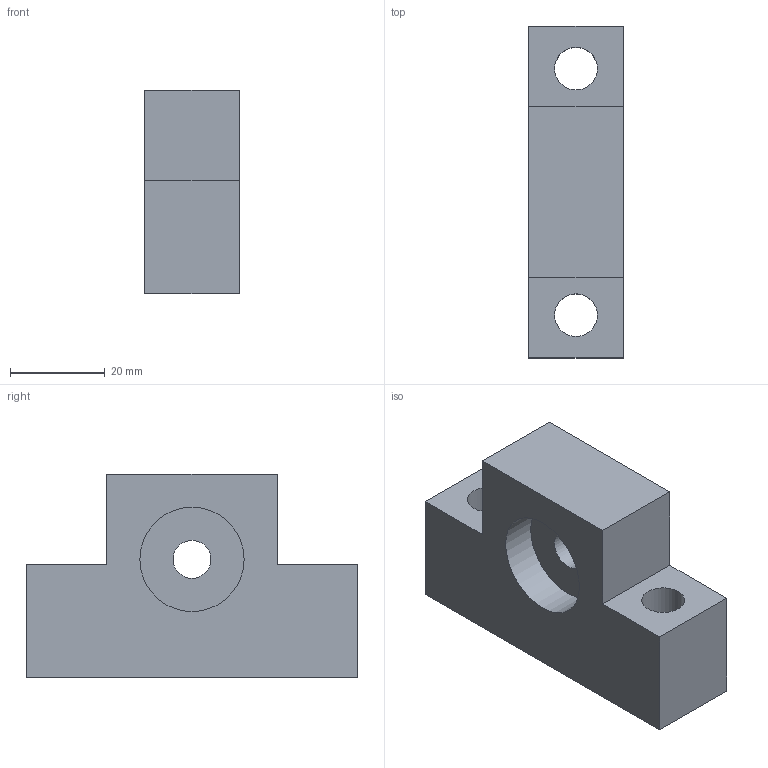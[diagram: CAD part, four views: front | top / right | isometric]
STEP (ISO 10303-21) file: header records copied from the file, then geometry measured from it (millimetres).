
FILE_DESCRIPTION(/* description */ (''),/* implementation_level */ '2;1');
FILE_NAME(/* name */ 'EF10-STP.stp',/* time_stamp */ '2019-11-18T09:08:26+08:00',/* author */ (''),/* organization */ (''),/* preprocessor_version */ 'ST-DEVELOPER v14',/* originating_system */ 'SIEMENS PLM Software NX 8.0',/* authorisation */ '');
FILE_SCHEMA (('AUTOMOTIVE_DESIGN { 1 0 10303 214 3 1 1 1 }'));
Length unit declared in the file: millimetre
Products named in the file (3): 708; EF10-SUB; EF10
Assembly tree (2 placements, depth 2):
  EF10
    EF10-SUB
    708
Bounding box: 20 x 70 x 43 mm (x, y, z)
Volume: 38894.9 mm3; surface area: 12366.3 mm2
Topology: 2 solids, 2 shells, 21 faces, 47 edges, 32 vertices
Faces by surface type: plane 14, cylinder 7
Full cylindrical faces by diameter (mm): 8 x1, 9 x2, 22 x3, 23 x1
Entity records: 622 total; most frequent: DIRECTION 100, CARTESIAN_POINT 92, ORIENTED_EDGE 76, EDGE_LOOP 38, EDGE_CURVE 38, AXIS2_PLACEMENT_3D 38, FACE_BOUND 33, VERTEX_POINT 30
